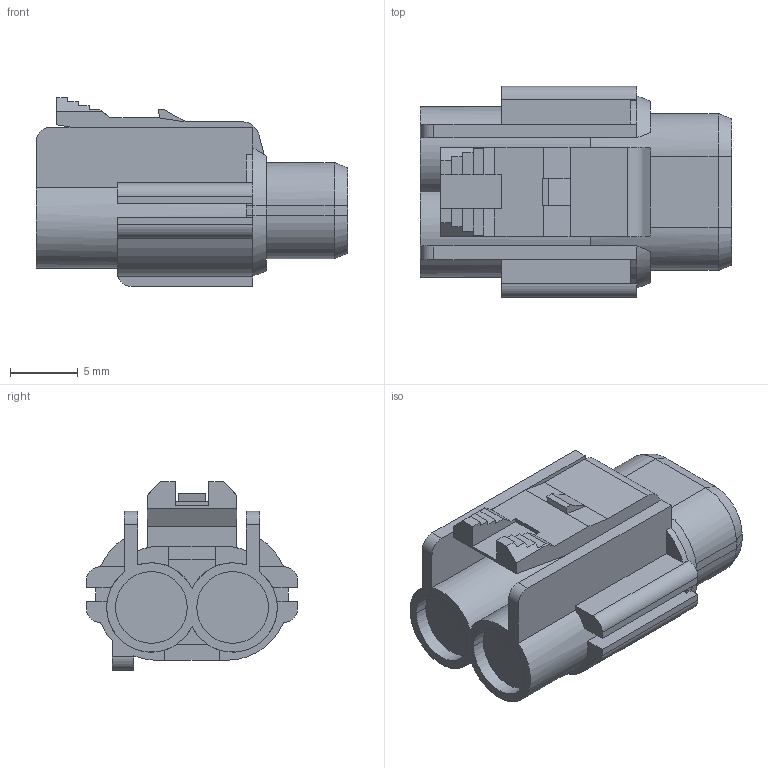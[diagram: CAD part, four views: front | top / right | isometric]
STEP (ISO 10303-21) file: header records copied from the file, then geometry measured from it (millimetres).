
FILE_DESCRIPTION(('CATIA V5 STEP Exchange','CAx-IF Rec.Pracs.--- Model Styling and Organization---1.2---2011-12-15'),'2;1');
FILE_NAME('N:\C-DAM_MyDesk\ENV\900093\6180-2591.stp','2015-02-03T09:16:56+00:00',('none'),('none'),'CATIA Version 5-6 Release 2012 SP4 HF74','CATIA V5 STEP AP214','none');
FILE_SCHEMA(('AUTOMOTIVE_DESIGN { 1 0 10303 214 1 1 1 1 }'));
Length unit declared in the file: millimetre
Products named in the file (1): 6180-2591
Bounding box: 23 x 15.6 x 13.95 mm (x, y, z)
Volume: 2011.3 mm3; surface area: 1958.3 mm2
Topology: 1 solids, 1 shells, 163 faces, 438 edges, 282 vertices
Faces by surface type: plane 126, cylinder 29, cone 8
Entity records: 4763 total; most frequent: ORIENTED_EDGE 876, CARTESIAN_POINT 862, DIRECTION 670, EDGE_CURVE 438, VECTOR 341, LINE 341, VERTEX_POINT 282, AXIS2_PLACEMENT_3D 211
